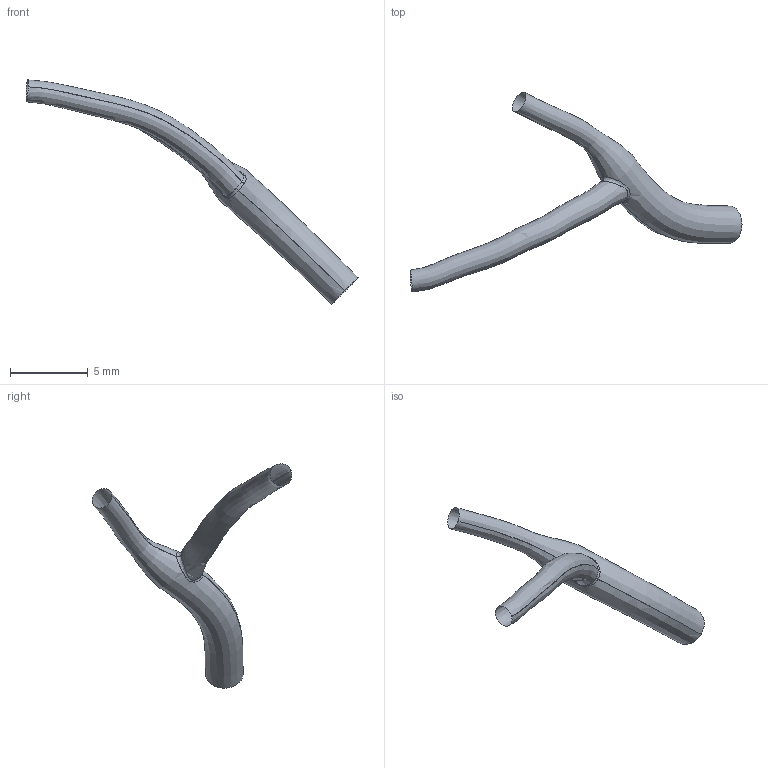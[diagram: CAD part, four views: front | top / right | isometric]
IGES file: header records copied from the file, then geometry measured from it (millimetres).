
Global section: file name: C:\Documents and Settings\Administrator\Desktop\FDA Bifurcation win\RawData_for_IGES\HRCA_Data\20010926.103228\IGES\20010926.103228.PDA.BIFUR.ED.igs; native system: Rhinoceros ( May 19 2006 ); preprocessor: Trout Lake IGES 012 May 19 2006; date: 100728.212603; units: centimetre
Bounding box: 21.39 x 12.89 x 14.45 mm (x, y, z)
Surface area: 210.9 mm2 (no closed solid volume)
Topology: 0 solids, 0 shells, 5 faces, 45 edges, 42 vertices
Faces by surface type: bspline 5
